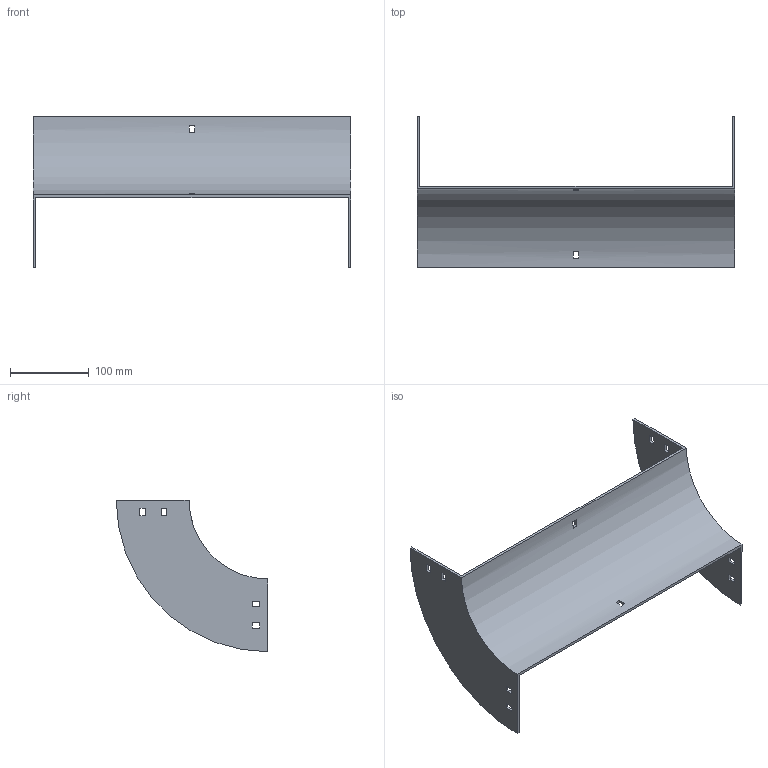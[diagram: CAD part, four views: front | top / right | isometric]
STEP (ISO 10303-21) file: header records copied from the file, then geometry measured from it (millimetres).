
FILE_DESCRIPTION (( 'STEP AP214' ), '1' );
FILE_NAME ('33B1I400.step', '2025-02-21T09:33:12', ( '' ), ( '' ), 'SwSTEP 2.0', 'SolidWorks 2023', '' );
FILE_SCHEMA (( 'AUTOMOTIVE_DESIGN' ));
Length unit declared in the file: millimetre
Products named in the file (1): 33B1I400
Bounding box: 404 x 192.5 x 192.5 mm (x, y, z)
Volume: 368456.1 mm3; surface area: 217889.8 mm2
Topology: 1 solids, 1 shells, 50 faces, 144 edges, 96 vertices
Faces by surface type: plane 46, cylinder 4
Entity records: 1687 total; most frequent: CARTESIAN_POINT 291, ORIENTED_EDGE 288, DIRECTION 262, EDGE_CURVE 144, VECTOR 128, LINE 128, VERTEX_POINT 96, EDGE_LOOP 70
